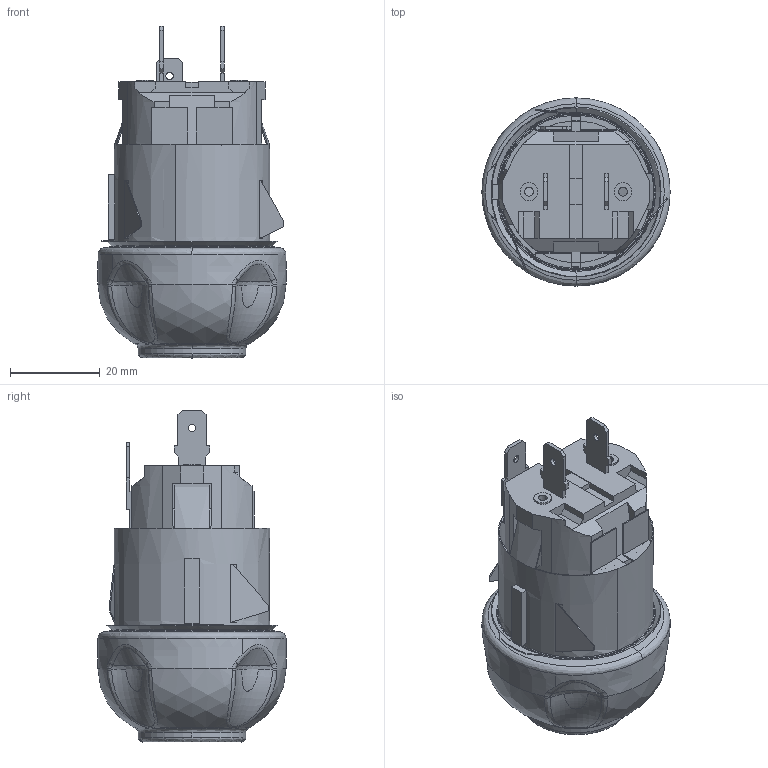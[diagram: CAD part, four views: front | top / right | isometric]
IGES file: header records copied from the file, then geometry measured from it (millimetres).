
Global section: file name: C:\CoreTechnologie\3D-in\01FYL12Y03.igs; native system: CT CoreTechnologie 3D Evolution; preprocessor: 2006; date: 1180101.132015; units: millimetre
Bounding box: 42 x 42 x 74.12 mm (x, y, z)
Volume: 31089.4 mm3; surface area: 23695.8 mm2
Topology: 4 solids, 4 shells, 482 faces, 1277 edges, 823 vertices
Faces by surface type: plane 279, revolution 145, bspline 58
